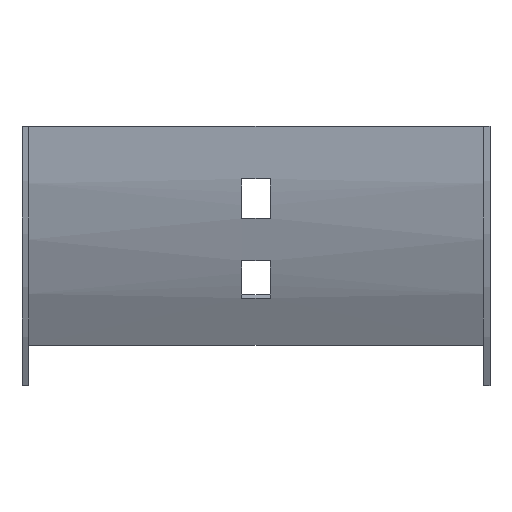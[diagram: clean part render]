
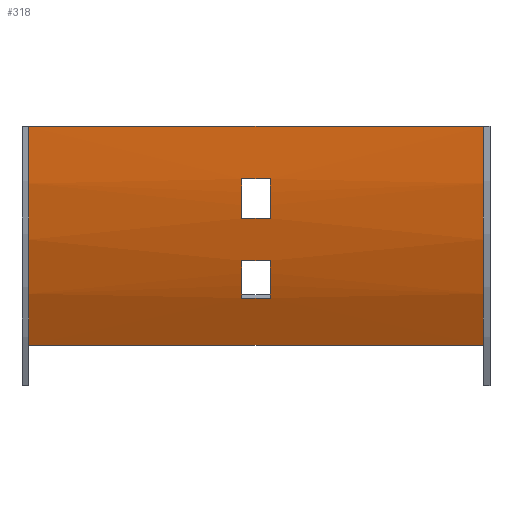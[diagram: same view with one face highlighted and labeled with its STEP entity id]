
A CAD part, front view. The second image highlights one B-rep face of the part: STEP entity #318.
In plain terms, the highlighted cylindrical face has radius 100 mm (diameter 200 mm), a partial arc.
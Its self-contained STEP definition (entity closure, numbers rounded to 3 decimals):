
#5 = CARTESIAN_POINT ( 'NONE',  ( -3.25, 98.5, 0. ) ) ;
#11 = CARTESIAN_POINT ( 'NONE',  ( -52., 11.897, -50. ) ) ;
#14 = VECTOR ( 'NONE', #273, 1000. ) ;
#18 = CARTESIAN_POINT ( 'NONE',  ( -52., -1.5, 0. ) ) ;
#19 = LINE ( 'NONE', #211, #461 ) ;
#23 = CIRCLE ( 'NONE', #113, 100. ) ;
#24 = AXIS2_PLACEMENT_3D ( 'NONE', #574, #329, #96 ) ;
#30 = DIRECTION ( 'NONE',  ( -1., 0., 0. ) ) ;
#31 = DIRECTION ( 'NONE',  ( 1., 0., 0. ) ) ;
#33 = EDGE_CURVE ( 'NONE', #535, #357, #23, .T. ) ;
#34 = CARTESIAN_POINT ( 'NONE',  ( 53.5, 3.329, -30.699 ) ) ;
#42 = CARTESIAN_POINT ( 'NONE',  ( 52., -1.5, 0. ) ) ;
#47 = ORIENTED_EDGE ( 'NONE', *, *, #536, .T. ) ;
#68 = EDGE_CURVE ( 'NONE', #77, #238, #538, .T. ) ;
#77 = VERTEX_POINT ( 'NONE', #433 ) ;
#78 = DIRECTION ( 'NONE',  ( 0., 0., 1. ) ) ;
#83 = LINE ( 'NONE', #42, #14 ) ;
#89 = ORIENTED_EDGE ( 'NONE', *, *, #153, .F. ) ;
#90 = FACE_OUTER_BOUND ( 'NONE', #580, .T. ) ;
#93 = CARTESIAN_POINT ( 'NONE',  ( -3.25, 98.5, 0. ) ) ;
#94 = ORIENTED_EDGE ( 'NONE', *, *, #33, .T. ) ;
#96 = DIRECTION ( 'NONE',  ( 0., 0., 1. ) ) ;
#101 = CARTESIAN_POINT ( 'NONE',  ( 53.5, -0.777, -12. ) ) ;
#102 = VERTEX_POINT ( 'NONE', #525 ) ;
#107 = DIRECTION ( 'NONE',  ( -1., 0., 0. ) ) ;
#108 = EDGE_CURVE ( 'NONE', #505, #117, #336, .T. ) ;
#113 = AXIS2_PLACEMENT_3D ( 'NONE', #137, #321, #504 ) ;
#117 = VERTEX_POINT ( 'NONE', #152 ) ;
#121 = CARTESIAN_POINT ( 'NONE',  ( 52., 11.897, -50. ) ) ;
#122 = AXIS2_PLACEMENT_3D ( 'NONE', #5, #249, #331 ) ;
#126 = DIRECTION ( 'NONE',  ( 1., 0., 0. ) ) ;
#130 = CARTESIAN_POINT ( 'NONE',  ( -3.25, 3.329, -30.699 ) ) ;
#137 = CARTESIAN_POINT ( 'NONE',  ( 3.25, 98.5, 0. ) ) ;
#142 = CYLINDRICAL_SURFACE ( 'NONE', #317, 100. ) ;
#143 = ORIENTED_EDGE ( 'NONE', *, *, #579, .T. ) ;
#152 = CARTESIAN_POINT ( 'NONE',  ( -3.25, -0.777, -12. ) ) ;
#153 = EDGE_CURVE ( 'NONE', #234, #102, #591, .T. ) ;
#172 = ORIENTED_EDGE ( 'NONE', *, *, #227, .T. ) ;
#174 = ORIENTED_EDGE ( 'NONE', *, *, #262, .F. ) ;
#175 = DIRECTION ( 'NONE',  ( 0., 0., 1. ) ) ;
#204 = EDGE_CURVE ( 'NONE', #553, #400, #485, .T. ) ;
#206 = DIRECTION ( 'NONE',  ( -1., 0., 0. ) ) ;
#209 = EDGE_CURVE ( 'NONE', #102, #505, #477, .T. ) ;
#211 = CARTESIAN_POINT ( 'NONE',  ( 53.5, 6.523, -39.246 ) ) ;
#222 = LINE ( 'NONE', #34, #522 ) ;
#227 = EDGE_CURVE ( 'NONE', #357, #77, #19, .T. ) ;
#233 = FACE_BOUND ( 'NONE', #425, .T. ) ;
#234 = VERTEX_POINT ( 'NONE', #404 ) ;
#238 = VERTEX_POINT ( 'NONE', #130 ) ;
#240 = DIRECTION ( 'NONE',  ( 0., 0., 1. ) ) ;
#246 = ORIENTED_EDGE ( 'NONE', *, *, #298, .T. ) ;
#249 = DIRECTION ( 'NONE',  ( -1., 0., 0. ) ) ;
#262 = EDGE_CURVE ( 'NONE', #117, #234, #582, .T. ) ;
#271 = AXIS2_PLACEMENT_3D ( 'NONE', #305, #578, #479 ) ;
#273 = DIRECTION ( 'NONE',  ( -1., 0., 0. ) ) ;
#287 = CARTESIAN_POINT ( 'NONE',  ( 3.25, 6.523, -39.246 ) ) ;
#292 = CARTESIAN_POINT ( 'NONE',  ( 52., -1.5, 0. ) ) ;
#297 = CARTESIAN_POINT ( 'NONE',  ( 53.5, 0.73, -21. ) ) ;
#298 = EDGE_CURVE ( 'NONE', #444, #463, #83, .T. ) ;
#305 = CARTESIAN_POINT ( 'NONE',  ( 3.25, 98.5, 0. ) ) ;
#317 = AXIS2_PLACEMENT_3D ( 'NONE', #513, #206, #240 ) ;
#318 = ADVANCED_FACE ( 'NONE', ( #233, #90, #557 ), #142, .T. ) ;
#321 = DIRECTION ( 'NONE',  ( 1., 0., 0. ) ) ;
#329 = DIRECTION ( 'NONE',  ( -1., 0., 0. ) ) ;
#331 = DIRECTION ( 'NONE',  ( 0., 0., -1. ) ) ;
#336 = LINE ( 'NONE', #101, #581 ) ;
#339 = DIRECTION ( 'NONE',  ( -1., 0., 0. ) ) ;
#343 = AXIS2_PLACEMENT_3D ( 'NONE', #93, #508, #78 ) ;
#344 = DIRECTION ( 'NONE',  ( -1., 0., 0. ) ) ;
#349 = CARTESIAN_POINT ( 'NONE',  ( 3.25, -0.777, -12. ) ) ;
#351 = CARTESIAN_POINT ( 'NONE',  ( 52., 11.897, -50. ) ) ;
#357 = VERTEX_POINT ( 'NONE', #287 ) ;
#362 = AXIS2_PLACEMENT_3D ( 'NONE', #388, #344, #175 ) ;
#374 = ORIENTED_EDGE ( 'NONE', *, *, #209, .F. ) ;
#375 = CIRCLE ( 'NONE', #24, 100. ) ;
#384 = VECTOR ( 'NONE', #339, 1000. ) ;
#388 = CARTESIAN_POINT ( 'NONE',  ( 52., 98.5, 0. ) ) ;
#400 = VERTEX_POINT ( 'NONE', #11 ) ;
#404 = CARTESIAN_POINT ( 'NONE',  ( -3.25, 0.73, -21. ) ) ;
#406 = EDGE_CURVE ( 'NONE', #400, #463, #375, .T. ) ;
#410 = ORIENTED_EDGE ( 'NONE', *, *, #68, .T. ) ;
#415 = EDGE_LOOP ( 'NONE', ( #172, #410, #143, #94 ) ) ;
#425 = EDGE_LOOP ( 'NONE', ( #174, #597, #374, #89 ) ) ;
#433 = CARTESIAN_POINT ( 'NONE',  ( -3.25, 6.523, -39.246 ) ) ;
#444 = VERTEX_POINT ( 'NONE', #292 ) ;
#461 = VECTOR ( 'NONE', #30, 1000. ) ;
#463 = VERTEX_POINT ( 'NONE', #18 ) ;
#477 = CIRCLE ( 'NONE', #271, 100. ) ;
#479 = DIRECTION ( 'NONE',  ( 0., 0., -1. ) ) ;
#485 = LINE ( 'NONE', #121, #384 ) ;
#504 = DIRECTION ( 'NONE',  ( 0., 0., 1. ) ) ;
#505 = VERTEX_POINT ( 'NONE', #349 ) ;
#508 = DIRECTION ( 'NONE',  ( 1., 0., 0. ) ) ;
#510 = VECTOR ( 'NONE', #126, 1000. ) ;
#513 = CARTESIAN_POINT ( 'NONE',  ( 53.5, 98.5, 0. ) ) ;
#522 = VECTOR ( 'NONE', #31, 1000. ) ;
#525 = CARTESIAN_POINT ( 'NONE',  ( 3.25, 0.73, -21. ) ) ;
#535 = VERTEX_POINT ( 'NONE', #590 ) ;
#536 = EDGE_CURVE ( 'NONE', #553, #444, #573, .T. ) ;
#538 = CIRCLE ( 'NONE', #122, 100. ) ;
#545 = ORIENTED_EDGE ( 'NONE', *, *, #204, .F. ) ;
#553 = VERTEX_POINT ( 'NONE', #351 ) ;
#557 = FACE_BOUND ( 'NONE', #415, .T. ) ;
#573 = CIRCLE ( 'NONE', #362, 100. ) ;
#574 = CARTESIAN_POINT ( 'NONE',  ( -52., 98.5, 0. ) ) ;
#578 = DIRECTION ( 'NONE',  ( -1., 0., 0. ) ) ;
#579 = EDGE_CURVE ( 'NONE', #238, #535, #222, .T. ) ;
#580 = EDGE_LOOP ( 'NONE', ( #585, #545, #47, #246 ) ) ;
#581 = VECTOR ( 'NONE', #107, 1000. ) ;
#582 = CIRCLE ( 'NONE', #343, 100. ) ;
#585 = ORIENTED_EDGE ( 'NONE', *, *, #406, .F. ) ;
#590 = CARTESIAN_POINT ( 'NONE',  ( 3.25, 3.329, -30.699 ) ) ;
#591 = LINE ( 'NONE', #297, #510 ) ;
#597 = ORIENTED_EDGE ( 'NONE', *, *, #108, .F. ) ;
